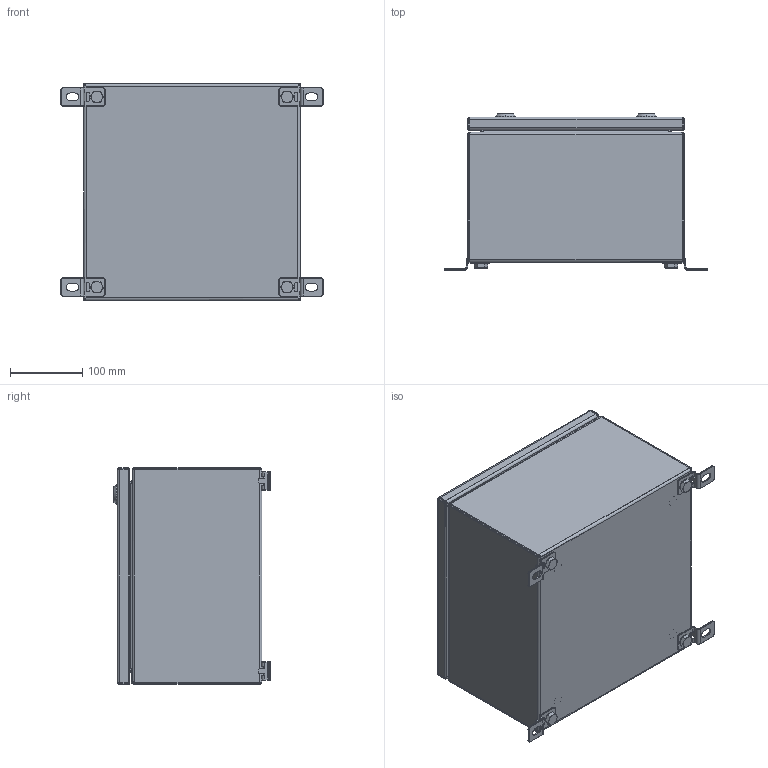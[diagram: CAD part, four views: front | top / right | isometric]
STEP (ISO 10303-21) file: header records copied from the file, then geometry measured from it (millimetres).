
FILE_DESCRIPTION (( 'STEP AP203' ), '1' );
FILE_NAME ('SA-34-01.step', '2018-02-13T21:54:25', ( '' ), ( '' ), 'SwSTEP 2.0', 'SolidWorks 2016', '' );
FILE_SCHEMA (( 'CONFIG_CONTROL_DESIGN' ));
Length unit declared in the file: inch
Products named in the file (29): Copy of SB-LATCH BODY-01^SB-xxLB; hex washer screw_ai_SI-HWMS 0.25-20x0.5x0.5-C; spring lock washer_2_jis_W-011; Copy of Copy of QT-01^SB-xxLB; SB-HP-01; SB-xxFK-01_SB-01FK-01; flat washer narrow_am_W-010; finished circular plain washer_jis_W-008; SB-01F-01; SB-xxP_SB-33P; SB-PIN-01; SB-WIRE-01; SB-01LN-xx_SB-01LN-02; finished circular plain washer_jis_W-006; SB-xxLB_SB-01LB-02; hex cap screw_am_SCREWS-040; e-ring external retaining ring_am_SB-RR-01; SB-GK-xx_SB-GK-02; Sx-xxB_SA-34B-01; hex nut style 1_am_N-005; W-005; hex nut style 1_am_N-004; hex nut style 1_am_N-003; SA-34-01; Copy of Part1^SB-xxLB; SB-xxL_SB-01L-02; spring lock washer_2_jis_W-007; Sx-xxC_SA-33C-01; spring lock washer_2_jis_W-009
Assembly tree (66 placements, depth 4):
  SA-34-01
    Sx-xxB_SA-34B-01
    Sx-xxC_SA-33C-01
    SB-xxL_SB-01L-02  x2
      SB-xxLB_SB-01LB-02
        Copy of Copy of QT-01^SB-xxLB
        Copy of SB-LATCH BODY-01^SB-xxLB
        hex washer screw_ai_SI-HWMS 0.25-20x0.5x0.5-C
        Copy of Part1^SB-xxLB
      SB-01LN-xx_SB-01LN-02
    SB-PIN-01  x2
    e-ring external retaining ring_am_SB-RR-01  x2
    SB-xxFK-01_SB-01FK-01
      SB-01F-01  x4
      hex cap screw_am_SCREWS-040  x4
      hex nut style 1_am_N-003  x4
      W-005  x4
      finished circular plain washer_jis_W-006  x4
      spring lock washer_2_jis_W-007  x4
    SB-GK-xx_SB-GK-02
      SB-WIRE-01
      flat washer narrow_am_W-010  x4
      spring lock washer_2_jis_W-011  x2
      hex nut style 1_am_N-005  x2
    SB-xxP_SB-33P
    finished circular plain washer_jis_W-008  x4
    spring lock washer_2_jis_W-009  x4
    hex nut style 1_am_N-004  x4
    SB-HP-01  x4
Bounding box: 362.47 x 215.98 x 300 mm (x, y, z)
Volume: 1054541.4 mm3; surface area: 1166150 mm2
Topology: 83 solids, 83 shells, 2218 faces, 4936 edges, 2882 vertices
Faces by surface type: plane 862, cylinder 784, cone 264, torus 178, bspline 90, sphere 40
Entity records: 44222 total; most frequent: CARTESIAN_POINT 11467, DIRECTION 6163, ORIENTED_EDGE 5790, EDGE_CURVE 2895, AXIS2_PLACEMENT_3D 2332, VERTEX_POINT 1694, VECTOR 1499, LINE 1499
